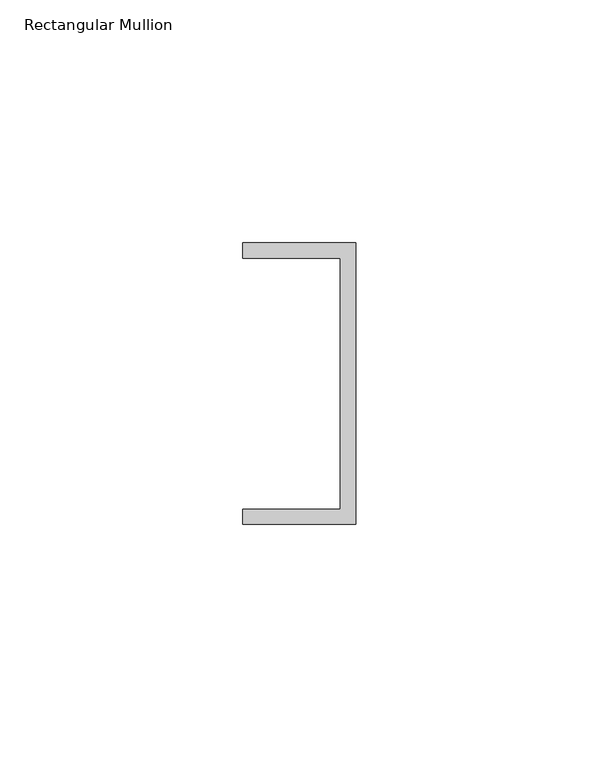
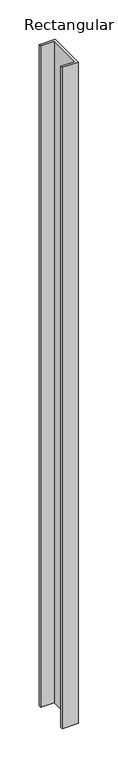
"""IFC4 building model written with IfcOpenShell, lengths in millimetres: member geometry, Rectangular Mullion : Frame-Teknion-Altos-Base_Channel."""

from ifc_helpers import new_model, si_unit, frame, origin, place, context, project, spatial, polyline, outline, extrude, source, transform, mapped, element, save


def rectangular_mullion_8e80d384(model_context):
    return source(origin(), model_context, "Body", "SweptSolid", [
        extrude(outline(polyline([(0.0, 29.0214844), (0.0, -29.0214844), (-23.3164063, -29.0214844), (-23.3164063, -25.8464844), (-3.175, -25.8464844), (-3.175, 25.8464844), (-23.3164063, 25.8464844), (-23.3164063, 29.0214844), (0.0, 29.0214844)])), frame((0.0, 0.0, -1024.8304688), z_axis=(0.0, 0.0, 1.0), x_axis=(1.0, 0.0, 0.0)), (0.0, 0.0, 1.0), 1024.8304687),
    ])


if __name__ == "__main__":
    model = new_model("IFC4")
    model_context = context("Model", 3, world=origin())
    ifc_project = project(units=[si_unit("LENGTHUNIT", "METRE", prefix="MILLI")], contexts=[model_context])
    site = spatial("IfcSite", under=ifc_project)
    building = spatial("IfcBuilding", under=site)
    placement = place(None, origin())
    rectangular_mullion_shape = rectangular_mullion_8e80d384(model_context)
    element("IfcMember", 1, ObjectType="Rectangular Mullion : Frame-Teknion-Altos-Base_Channel", at=placement, inside=building, context=model_context, shape_type="MappedRepresentation", body=[
        mapped(rectangular_mullion_shape, transform((0.0, 0.0, 0.0), x_axis=(1.0, 0.0, 0.0), y_axis=(0.0, 1.0, 0.0), z_axis=(0.0, 0.0, 1.0))),
    ])
    save(model, "model.ifc")
